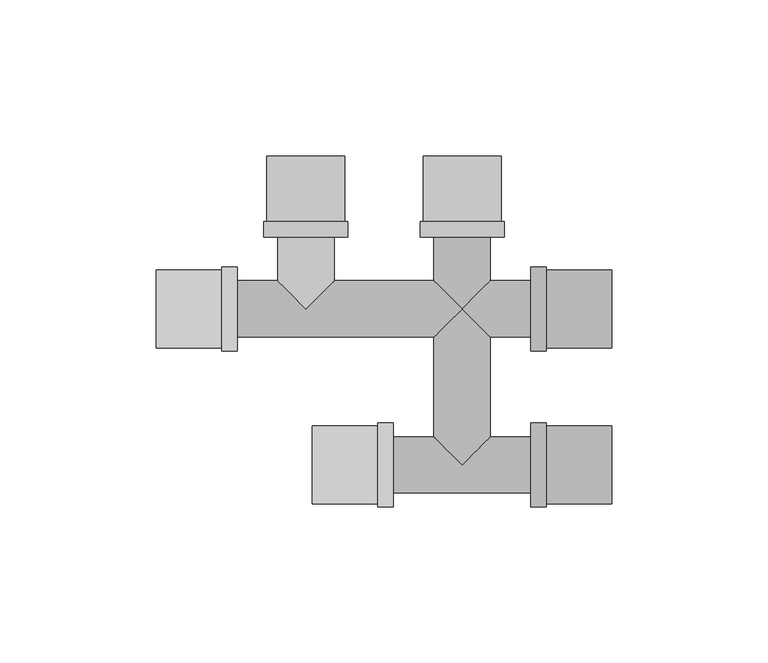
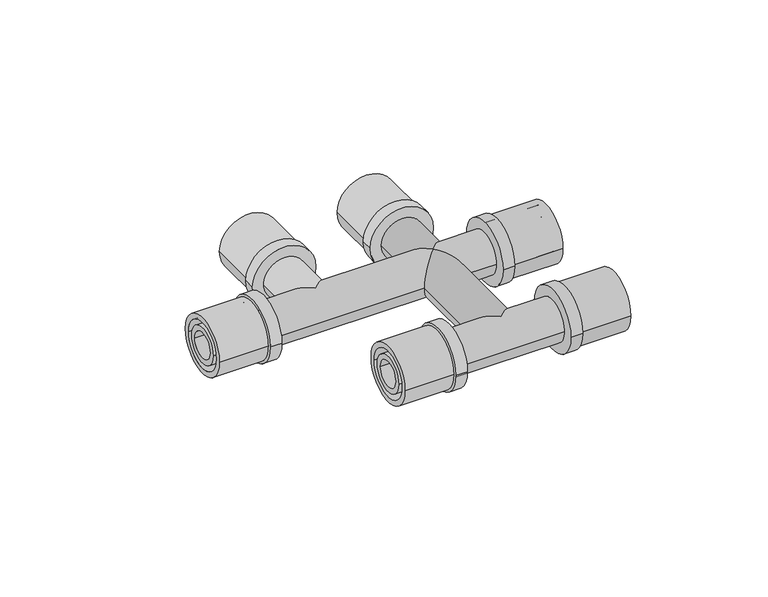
"""IFC4 building model written with IfcOpenShell, lengths in millimetres: pipe fitting geometry, PIF_Tigris_Crossfitting_Wavin_(multiport) : Tigris M5 Crossfitting 20x20x20."""

from ifc_helpers import new_model, si_unit, point, frame, frame_2d, origin, origin_2d, place, context, project, spatial, circle_curve, ellipse_curve, trimmed, segment, composite_curve, outline, extrude, source, transform, mapped, element, save
from ifc_brep_helpers import plane_surface, cylinder_surface, advanced_brep


def pipe_fitting_06188edc(model_context):
    return source(origin(), model_context, "Body", "SolidModel", [
        extrude(outline(composite_curve([segment(trimmed(circle_curve(frame_2d((-50.0, 0.0)), 13.45), [point((-63.45, 0.0))], [point((-36.55, 0.0))], False, "CARTESIAN"), True, "CONTINUOUS"), segment(trimmed(circle_curve(frame_2d((-50.0, 0.0)), 13.45), [point((-36.55, 0.0))], [point((-63.45, 0.0))], False, "CARTESIAN"), True, "CONTINUOUS")], self_intersect=False)), frame((-27.0, 0.0, 0.0), z_axis=(1.0, 0.0, 0.0), x_axis=(0.0, 1.0, 0.0)), (0.0, 0.0, 1.0), 5.0),
        extrude(outline(composite_curve([segment(trimmed(circle_curve(frame_2d((-50.0, 0.0)), 12.5), [point((-62.5, 0.0))], [point((-37.5, 0.0))], False, "CARTESIAN"), True, "CONTINUOUS"), segment(trimmed(circle_curve(frame_2d((-50.0, 0.0)), 12.5), [point((-37.5, 0.0))], [point((-62.5, 0.0))], False, "CARTESIAN"), True, "CONTINUOUS")], self_intersect=False), holes=[composite_curve([segment(trimmed(circle_curve(frame_2d((-50.0, 0.0)), 10.2), [point((-60.2, 0.0))], [point((-39.8, 0.0))], True, "CARTESIAN"), True, "CONTINUOUS"), segment(trimmed(circle_curve(frame_2d((-50.0, 0.0)), 10.2), [point((-39.8, 0.0))], [point((-60.2, 0.0))], True, "CARTESIAN"), True, "CONTINUOUS")], self_intersect=False)]), frame((-48.0, 0.0, 0.0), z_axis=(1.0, 0.0, 0.0), x_axis=(0.0, 1.0, 0.0)), (0.0, 0.0, 1.0), 21.0),
        extrude(outline(composite_curve([segment(trimmed(circle_curve(frame_2d((-50.0, 0.0)), 7.9), [point((-57.9, 0.0))], [point((-42.1, 0.0))], False, "CARTESIAN"), True, "CONTINUOUS"), segment(trimmed(circle_curve(frame_2d((-50.0, 0.0)), 7.9), [point((-42.1, 0.0))], [point((-57.9, 0.0))], False, "CARTESIAN"), True, "CONTINUOUS")], self_intersect=False), holes=[composite_curve([segment(trimmed(circle_curve(frame_2d((-50.0, 0.0)), 5.6), [point((-55.6, 0.0))], [point((-44.4, 0.0))], True, "CARTESIAN"), True, "CONTINUOUS"), segment(trimmed(circle_curve(frame_2d((-50.0, 0.0)), 5.6), [point((-44.4, 0.0))], [point((-55.6, 0.0))], True, "CARTESIAN"), True, "CONTINUOUS")], self_intersect=False)]), frame((-48.0, 0.0, 0.0), z_axis=(1.0, 0.0, 0.0), x_axis=(0.0, 1.0, 0.0)), (0.0, 0.0, 1.0), 26.0),
        extrude(outline(composite_curve([segment(trimmed(circle_curve(frame_2d((-50.0, 0.0)), 13.45), [point((-36.55, 0.0))], [point((-63.45, 0.0))], False, "CARTESIAN"), True, "CONTINUOUS"), segment(trimmed(circle_curve(frame_2d((-50.0, 0.0)), 13.45), [point((-63.45, 0.0))], [point((-36.55, 0.0))], False, "CARTESIAN"), True, "CONTINUOUS")], self_intersect=False)), frame((22.0, 0.0, 0.0), z_axis=(1.0, 0.0, 0.0), x_axis=(0.0, 1.0, 0.0)), (0.0, 0.0, 1.0), 5.0),
        extrude(outline(composite_curve([segment(trimmed(circle_curve(frame_2d((-50.0, 0.0)), 12.5), [point((-37.5, 0.0))], [point((-62.5, 0.0))], False, "CARTESIAN"), True, "CONTINUOUS"), segment(trimmed(circle_curve(frame_2d((-50.0, 0.0)), 12.5), [point((-62.5, 0.0))], [point((-37.5, 0.0))], False, "CARTESIAN"), True, "CONTINUOUS")], self_intersect=False), holes=[composite_curve([segment(trimmed(circle_curve(frame_2d((-50.0, 0.0)), 10.2), [point((-39.8, 0.0))], [point((-60.2, 0.0))], True, "CARTESIAN"), True, "CONTINUOUS"), segment(trimmed(circle_curve(frame_2d((-50.0, 0.0)), 10.2), [point((-60.2, 0.0))], [point((-39.8, 0.0))], True, "CARTESIAN"), True, "CONTINUOUS")], self_intersect=False)]), frame((27.0, 0.0, 0.0), z_axis=(1.0, 0.0, 0.0), x_axis=(0.0, 1.0, 0.0)), (0.0, 0.0, 1.0), 21.0),
        extrude(outline(composite_curve([segment(trimmed(circle_curve(frame_2d((-50.0, 0.0)), 7.9), [point((-42.1, 0.0))], [point((-57.9, 0.0))], False, "CARTESIAN"), True, "CONTINUOUS"), segment(trimmed(circle_curve(frame_2d((-50.0, 0.0)), 7.9), [point((-57.9, 0.0))], [point((-42.1, 0.0))], False, "CARTESIAN"), True, "CONTINUOUS")], self_intersect=False), holes=[composite_curve([segment(trimmed(circle_curve(frame_2d((-50.0, 0.0)), 5.6), [point((-44.4, 0.0))], [point((-55.6, 0.0))], True, "CARTESIAN"), True, "CONTINUOUS"), segment(trimmed(circle_curve(frame_2d((-50.0, 0.0)), 5.6), [point((-55.6, 0.0))], [point((-44.4, 0.0))], True, "CARTESIAN"), True, "CONTINUOUS")], self_intersect=False)]), frame((22.0, 0.0, 0.0), z_axis=(1.0, 0.0, 0.0), x_axis=(0.0, 1.0, 0.0)), (0.0, 0.0, 1.0), 26.0),
        extrude(outline(composite_curve([segment(trimmed(circle_curve(origin_2d(), 13.45), [point((13.45, 0.0))], [point((-13.45, 0.0))], False, "CARTESIAN"), True, "CONTINUOUS"), segment(trimmed(circle_curve(origin_2d(), 13.45), [point((-13.45, 0.0))], [point((13.45, 0.0))], False, "CARTESIAN"), True, "CONTINUOUS")], self_intersect=False)), frame((22.0, 0.0, 0.0), z_axis=(1.0, 0.0, 0.0), x_axis=(0.0, 1.0, 0.0)), (0.0, 0.0, 1.0), 5.0),
        extrude(outline(composite_curve([segment(trimmed(circle_curve(origin_2d(), 12.5), [point((12.5, 0.0))], [point((-12.5, 0.0))], False, "CARTESIAN"), True, "CONTINUOUS"), segment(trimmed(circle_curve(origin_2d(), 12.5), [point((-12.5, 0.0))], [point((12.5, 0.0))], False, "CARTESIAN"), True, "CONTINUOUS")], self_intersect=False), holes=[composite_curve([segment(trimmed(circle_curve(origin_2d(), 10.2), [point((10.2, 0.0))], [point((-10.2, 0.0))], True, "CARTESIAN"), True, "CONTINUOUS"), segment(trimmed(circle_curve(origin_2d(), 10.2), [point((-10.2, 0.0))], [point((10.2, 0.0))], True, "CARTESIAN"), True, "CONTINUOUS")], self_intersect=False)]), frame((27.0, 0.0, 0.0), z_axis=(1.0, 0.0, 0.0), x_axis=(0.0, 1.0, 0.0)), (0.0, 0.0, 1.0), 21.0),
        extrude(outline(composite_curve([segment(trimmed(circle_curve(origin_2d(), 7.9), [point((7.9, 0.0))], [point((-7.9, 0.0))], False, "CARTESIAN"), True, "CONTINUOUS"), segment(trimmed(circle_curve(origin_2d(), 7.9), [point((-7.9, 0.0))], [point((7.9, 0.0))], False, "CARTESIAN"), True, "CONTINUOUS")], self_intersect=False), holes=[composite_curve([segment(trimmed(circle_curve(origin_2d(), 5.6), [point((5.6, 0.0))], [point((-5.6, 0.0))], True, "CARTESIAN"), True, "CONTINUOUS"), segment(trimmed(circle_curve(origin_2d(), 5.6), [point((-5.6, 0.0))], [point((5.6, 0.0))], True, "CARTESIAN"), True, "CONTINUOUS")], self_intersect=False)]), frame((22.0, 0.0, 0.0), z_axis=(1.0, 0.0, 0.0), x_axis=(0.0, 1.0, 0.0)), (0.0, 0.0, 1.0), 26.0),
        extrude(outline(composite_curve([segment(trimmed(circle_curve(origin_2d(), 13.45), [point((0.0, -13.45))], [point((0.0, 13.45))], False, "CARTESIAN"), True, "CONTINUOUS"), segment(trimmed(circle_curve(origin_2d(), 13.45), [point((0.0, 13.45))], [point((0.0, -13.45))], False, "CARTESIAN"), True, "CONTINUOUS")], self_intersect=False)), frame((0.0, 23.0, 0.0), z_axis=(0.0, 1.0, 0.0), x_axis=(0.0, 0.0, 1.0)), (0.0, 0.0, 1.0), 5.0),
        extrude(outline(composite_curve([segment(trimmed(circle_curve(origin_2d(), 12.5), [point((0.0, -12.5))], [point((0.0, 12.5))], False, "CARTESIAN"), True, "CONTINUOUS"), segment(trimmed(circle_curve(origin_2d(), 12.5), [point((0.0, 12.5))], [point((0.0, -12.5))], False, "CARTESIAN"), True, "CONTINUOUS")], self_intersect=False), holes=[composite_curve([segment(trimmed(circle_curve(origin_2d(), 10.2), [point((0.0, -10.2))], [point((0.0, 10.2))], True, "CARTESIAN"), True, "CONTINUOUS"), segment(trimmed(circle_curve(origin_2d(), 10.2), [point((0.0, 10.2))], [point((0.0, -10.2))], True, "CARTESIAN"), True, "CONTINUOUS")], self_intersect=False)]), frame((0.0, 28.0, 0.0), z_axis=(0.0, 1.0, 0.0), x_axis=(0.0, 0.0, 1.0)), (0.0, 0.0, 1.0), 21.0),
        extrude(outline(composite_curve([segment(trimmed(circle_curve(origin_2d(), 7.9), [point((0.0, -7.9))], [point((0.0, 7.9))], False, "CARTESIAN"), True, "CONTINUOUS"), segment(trimmed(circle_curve(origin_2d(), 7.9), [point((0.0, 7.9))], [point((0.0, -7.9))], False, "CARTESIAN"), True, "CONTINUOUS")], self_intersect=False), holes=[composite_curve([segment(trimmed(circle_curve(origin_2d(), 5.6), [point((0.0, -5.6))], [point((0.0, 5.6))], True, "CARTESIAN"), True, "CONTINUOUS"), segment(trimmed(circle_curve(origin_2d(), 5.6), [point((0.0, 5.6))], [point((0.0, -5.6))], True, "CARTESIAN"), True, "CONTINUOUS")], self_intersect=False)]), frame((0.0, 23.0, 0.0), z_axis=(0.0, 1.0, 0.0), x_axis=(0.0, 0.0, 1.0)), (0.0, 0.0, 1.0), 26.0),
        extrude(outline(composite_curve([segment(trimmed(circle_curve(frame_2d((0.0, -50.0)), 13.45), [point((0.0, -63.45))], [point((0.0, -36.55))], False, "CARTESIAN"), True, "CONTINUOUS"), segment(trimmed(circle_curve(frame_2d((0.0, -50.0)), 13.45), [point((0.0, -36.55))], [point((0.0, -63.45))], False, "CARTESIAN"), True, "CONTINUOUS")], self_intersect=False)), frame((0.0, 23.0, 0.0), z_axis=(0.0, 1.0, 0.0), x_axis=(0.0, 0.0, 1.0)), (0.0, 0.0, 1.0), 5.0),
        extrude(outline(composite_curve([segment(trimmed(circle_curve(frame_2d((0.0, -50.0)), 12.5), [point((0.0, -62.5))], [point((0.0, -37.5))], False, "CARTESIAN"), True, "CONTINUOUS"), segment(trimmed(circle_curve(frame_2d((0.0, -50.0)), 12.5), [point((0.0, -37.5))], [point((0.0, -62.5))], False, "CARTESIAN"), True, "CONTINUOUS")], self_intersect=False), holes=[composite_curve([segment(trimmed(circle_curve(frame_2d((0.0, -50.0)), 10.2), [point((0.0, -60.2))], [point((0.0, -39.8))], True, "CARTESIAN"), True, "CONTINUOUS"), segment(trimmed(circle_curve(frame_2d((0.0, -50.0)), 10.2), [point((0.0, -39.8))], [point((0.0, -60.2))], True, "CARTESIAN"), True, "CONTINUOUS")], self_intersect=False)]), frame((0.0, 28.0, 0.0), z_axis=(0.0, 1.0, 0.0), x_axis=(0.0, 0.0, 1.0)), (0.0, 0.0, 1.0), 21.0),
        extrude(outline(composite_curve([segment(trimmed(circle_curve(frame_2d((0.0, -50.0)), 7.9), [point((0.0, -57.9))], [point((0.0, -42.1))], False, "CARTESIAN"), True, "CONTINUOUS"), segment(trimmed(circle_curve(frame_2d((0.0, -50.0)), 7.9), [point((0.0, -42.1))], [point((0.0, -57.9))], False, "CARTESIAN"), True, "CONTINUOUS")], self_intersect=False), holes=[composite_curve([segment(trimmed(circle_curve(frame_2d((0.0, -50.0)), 5.6), [point((0.0, -55.6))], [point((0.0, -44.4))], True, "CARTESIAN"), True, "CONTINUOUS"), segment(trimmed(circle_curve(frame_2d((0.0, -50.0)), 5.6), [point((0.0, -44.4))], [point((0.0, -55.6))], True, "CARTESIAN"), True, "CONTINUOUS")], self_intersect=False)]), frame((0.0, 23.0, 0.0), z_axis=(0.0, 1.0, 0.0), x_axis=(0.0, 0.0, 1.0)), (0.0, 0.0, 1.0), 26.0),
        extrude(outline(composite_curve([segment(trimmed(circle_curve(origin_2d(), 13.45), [point((-13.45, 0.0))], [point((13.45, 0.0))], False, "CARTESIAN"), True, "CONTINUOUS"), segment(trimmed(circle_curve(origin_2d(), 13.45), [point((13.45, 0.0))], [point((-13.45, 0.0))], False, "CARTESIAN"), True, "CONTINUOUS")], self_intersect=False)), frame((-77.0, 0.0, 0.0), z_axis=(1.0, 0.0, 0.0), x_axis=(0.0, 1.0, 0.0)), (0.0, 0.0, 1.0), 5.0),
        extrude(outline(composite_curve([segment(trimmed(circle_curve(origin_2d(), 12.5), [point((-12.5, 0.0))], [point((12.5, 0.0))], False, "CARTESIAN"), True, "CONTINUOUS"), segment(trimmed(circle_curve(origin_2d(), 12.5), [point((12.5, 0.0))], [point((-12.5, 0.0))], False, "CARTESIAN"), True, "CONTINUOUS")], self_intersect=False), holes=[composite_curve([segment(trimmed(circle_curve(origin_2d(), 10.2), [point((-10.2, 0.0))], [point((10.2, 0.0))], True, "CARTESIAN"), True, "CONTINUOUS"), segment(trimmed(circle_curve(origin_2d(), 10.2), [point((10.2, 0.0))], [point((-10.2, 0.0))], True, "CARTESIAN"), True, "CONTINUOUS")], self_intersect=False)]), frame((-98.0, 0.0, 0.0), z_axis=(1.0, 0.0, 0.0), x_axis=(0.0, 1.0, 0.0)), (0.0, 0.0, 1.0), 21.0),
        extrude(outline(composite_curve([segment(trimmed(circle_curve(origin_2d(), 7.9), [point((-7.9, 0.0))], [point((7.9, 0.0))], False, "CARTESIAN"), True, "CONTINUOUS"), segment(trimmed(circle_curve(origin_2d(), 7.9), [point((7.9, 0.0))], [point((-7.9, 0.0))], False, "CARTESIAN"), True, "CONTINUOUS")], self_intersect=False), holes=[composite_curve([segment(trimmed(circle_curve(origin_2d(), 5.6), [point((-5.6, 0.0))], [point((5.6, 0.0))], True, "CARTESIAN"), True, "CONTINUOUS"), segment(trimmed(circle_curve(origin_2d(), 5.6), [point((5.6, 0.0))], [point((-5.6, 0.0))], True, "CARTESIAN"), True, "CONTINUOUS")], self_intersect=False)]), frame((-98.0, 0.0, 0.0), z_axis=(1.0, 0.0, 0.0), x_axis=(0.0, 1.0, 0.0)), (0.0, 0.0, 1.0), 26.0),
        advanced_brep(
        [(-41.0, 23.0, 0.0), (-59.0, 23.0, 0.0), (-59.0, 9.0, 0.0), (-50.0, 0.0, 9.0), (-41.0, 9.0, 0.0), (-50.0, 0.0, -9.0), (-72.0, -9.0, 0.0), (-72.0, 9.0, 0.0), (22.0, -9.0, 0.0), (22.0, 9.0, 0.0), (-9.0, -9.0, 0.0), (0.0, 0.0, 9.0), (-9.0, 9.0, 0.0), (9.0, 9.0, 0.0), (9.0, -9.0, 0.0), (0.0, 0.0, -9.0), (-9.0, 23.0, 0.0), (9.0, 23.0, 0.0), (-9.0, -41.0, 0.0), (0.0, -50.0, 9.0), (9.0, -41.0, 0.0), (0.0, -50.0, -9.0), (-22.0, -59.0, 0.0), (-22.0, -41.0, 0.0), (22.0, -59.0, 0.0), (22.0, -41.0, 0.0)],
        [
            (0, 1, circle_curve(frame((-50.0, 23.0, 0.0), z_axis=(0.0, 1.0, 0.0), x_axis=(-1.0, 0.0, 0.0)), 9.0)),
            (1, 0, circle_curve(frame((-50.0, 23.0, 0.0), z_axis=(0.0, 1.0, 0.0), x_axis=(-1.0, 0.0, 0.0)), 9.0)),
            (1, 2),
            (2, 3, ellipse_curve(frame((-50.0, 0.0, 0.0), z_axis=(0.7071067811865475, 0.7071067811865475, 0.0), x_axis=(0.7071067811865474, -0.7071067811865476, 0.0)), 12.7279221, 9.0)),
            (3, 4, ellipse_curve(frame((-50.0, 0.0, 0.0), z_axis=(-0.7071067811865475, 0.7071067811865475, 0.0), x_axis=(-0.7071067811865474, -0.7071067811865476, 0.0)), 12.7279221, 9.0)),
            (4, 0),
            (4, 5, ellipse_curve(frame((-50.0, 0.0, 0.0), z_axis=(-0.7071067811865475, 0.7071067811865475, 0.0), x_axis=(-0.7071067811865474, -0.7071067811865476, 0.0)), 12.7279221, 9.0)),
            (5, 2, ellipse_curve(frame((-50.0, 0.0, 0.0), z_axis=(0.7071067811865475, 0.7071067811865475, 0.0), x_axis=(0.7071067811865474, -0.7071067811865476, 0.0)), 12.7279221, 9.0)),
            (6, 7, circle_curve(frame((-72.0, 0.0, 0.0), z_axis=(-1.0, 0.0, 0.0), x_axis=(0.0, 1.0, 0.0)), 9.0)),
            (7, 6, circle_curve(frame((-72.0, 0.0, 0.0), z_axis=(-1.0, 0.0, 0.0), x_axis=(0.0, 1.0, 0.0)), 9.0)),
            (8, 9, circle_curve(frame((22.0, 0.0, 0.0), z_axis=(1.0, 0.0, 0.0), x_axis=(0.0, 1.0, 0.0)), 9.0)),
            (9, 8, circle_curve(frame((22.0, 0.0, 0.0), z_axis=(1.0, 0.0, 0.0), x_axis=(0.0, 1.0, 0.0)), 9.0)),
            (6, 10),
            (10, 11, ellipse_curve(frame((0.0, 0.0, 0.0), z_axis=(-0.7071067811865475, 0.7071067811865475, 0.0), x_axis=(-0.7071067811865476, -0.7071067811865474, 0.0)), 12.7279221, 9.0)),
            (11, 12, ellipse_curve(frame((0.0, 0.0, 0.0), z_axis=(-0.7071067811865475, -0.7071067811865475, 0.0), x_axis=(-0.7071067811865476, 0.7071067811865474, 0.0)), 12.7279221, 9.0)),
            (12, 4),
            (2, 7),
            (9, 13),
            (13, 11, ellipse_curve(frame((0.0, 0.0, 0.0), z_axis=(0.7071067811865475, -0.7071067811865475, 0.0), x_axis=(-0.7071067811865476, -0.7071067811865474, 0.0)), 12.7279221, 9.0)),
            (11, 14, ellipse_curve(frame((0.0, 0.0, 0.0), z_axis=(0.7071067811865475, 0.7071067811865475, 0.0), x_axis=(-0.7071067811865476, 0.7071067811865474, 0.0)), 12.7279221, 9.0)),
            (14, 8),
            (12, 15, ellipse_curve(frame((0.0, 0.0, 0.0), z_axis=(-0.7071067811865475, -0.7071067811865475, 0.0), x_axis=(-0.7071067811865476, 0.7071067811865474, 0.0)), 12.7279221, 9.0)),
            (15, 10, ellipse_curve(frame((0.0, 0.0, 0.0), z_axis=(-0.7071067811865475, 0.7071067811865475, 0.0), x_axis=(-0.7071067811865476, -0.7071067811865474, 0.0)), 12.7279221, 9.0)),
            (14, 15, ellipse_curve(frame((0.0, 0.0, 0.0), z_axis=(0.7071067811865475, 0.7071067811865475, 0.0), x_axis=(-0.7071067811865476, 0.7071067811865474, 0.0)), 12.7279221, 9.0)),
            (15, 13, ellipse_curve(frame((0.0, 0.0, 0.0), z_axis=(0.7071067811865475, -0.7071067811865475, 0.0), x_axis=(-0.7071067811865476, -0.7071067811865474, 0.0)), 12.7279221, 9.0)),
            (16, 17, circle_curve(frame((0.0, 23.0, 0.0), z_axis=(0.0, 1.0, 0.0), x_axis=(1.0, 0.0, 0.0)), 9.0)),
            (17, 16, circle_curve(frame((0.0, 23.0, 0.0), z_axis=(0.0, 1.0, 0.0), x_axis=(1.0, 0.0, 0.0)), 9.0)),
            (10, 18),
            (18, 19, ellipse_curve(frame((0.0, -50.0, 0.0), z_axis=(0.7071067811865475, 0.7071067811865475, 0.0), x_axis=(-0.7071067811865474, 0.7071067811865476, 0.0)), 12.7279221, 9.0)),
            (19, 20, ellipse_curve(frame((0.0, -50.0, 0.0), z_axis=(-0.7071067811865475, 0.7071067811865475, 0.0), x_axis=(0.7071067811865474, 0.7071067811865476, 0.0)), 12.7279221, 9.0)),
            (20, 14),
            (16, 12),
            (13, 17),
            (20, 21, ellipse_curve(frame((0.0, -50.0, 0.0), z_axis=(-0.7071067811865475, 0.7071067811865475, 0.0), x_axis=(0.7071067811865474, 0.7071067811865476, 0.0)), 12.7279221, 9.0)),
            (21, 18, ellipse_curve(frame((0.0, -50.0, 0.0), z_axis=(0.7071067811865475, 0.7071067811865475, 0.0), x_axis=(-0.7071067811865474, 0.7071067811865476, 0.0)), 12.7279221, 9.0)),
            (22, 23, circle_curve(frame((-22.0, -50.0, 0.0), z_axis=(-1.0, 0.0, 0.0), x_axis=(0.0, 1.0, 0.0)), 9.0)),
            (23, 22, circle_curve(frame((-22.0, -50.0, 0.0), z_axis=(-1.0, 0.0, 0.0), x_axis=(0.0, 1.0, 0.0)), 9.0)),
            (24, 25, circle_curve(frame((22.0, -50.0, 0.0), z_axis=(1.0, 0.0, 0.0), x_axis=(0.0, 1.0, 0.0)), 9.0)),
            (25, 24, circle_curve(frame((22.0, -50.0, 0.0), z_axis=(1.0, 0.0, 0.0), x_axis=(0.0, 1.0, 0.0)), 9.0)),
            (22, 24),
            (25, 20),
            (18, 23),
        ],
        [
            plane_surface(frame((-50.0, 23.0, 0.0), z_axis=(0.0, 1.0, 0.0), x_axis=(0.0, 0.0, 1.0))),
            cylinder_surface(frame((-50.0, 0.0, 0.0), z_axis=(0.0, -1.0, 0.0), x_axis=(-1.0, 0.0, 0.0)), 9.0),
            plane_surface(frame((-72.0, 0.0, 0.0), z_axis=(-1.0, 0.0, 0.0), x_axis=(0.0, 0.0, 1.0))),
            plane_surface(frame((22.0, 0.0, 0.0), z_axis=(1.0, 0.0, 0.0), x_axis=(0.0, 0.0, 1.0))),
            cylinder_surface(frame((-72.0, 0.0, 0.0), z_axis=(-1.0, 0.0, 0.0), x_axis=(0.0, 1.0, 0.0)), 9.0),
            plane_surface(frame((0.0, 23.0, 0.0), z_axis=(0.0, 1.0, 0.0), x_axis=(0.0, 0.0, 1.0))),
            cylinder_surface(frame((0.0, 23.0, 0.0), z_axis=(0.0, 1.0, 0.0), x_axis=(1.0, 0.0, 0.0)), 9.0),
            plane_surface(frame((-22.0, -50.0, 0.0), z_axis=(-1.0, 0.0, 0.0), x_axis=(0.0, 0.0, 1.0))),
            plane_surface(frame((22.0, -50.0, 0.0), z_axis=(1.0, 0.0, 0.0), x_axis=(0.0, 0.0, 1.0))),
            cylinder_surface(frame((-22.0, -50.0, 0.0), z_axis=(-1.0, 0.0, 0.0), x_axis=(0.0, 1.0, 0.0)), 9.0),
        ],
        [
            (0, [[1, 2]]),
            (1, [[-2, 3, 4, 5, 6]]),
            (1, [[-1, -6, 7, 8, -3]]),
            (2, [[9, 10]]),
            (3, [[11, 12]]),
            (4, [[-9, 13, 14, 15, 16, -5, -4, 17]]),
            (4, [[-12, 18, 19, 20, 21]]),
            (4, [[-10, -17, -8, -7, -16, 22, 23, -13]]),
            (4, [[-11, -21, 24, 25, -18]]),
            (5, [[26, 27]]),
            (6, [[-20, -14, 28, 29, 30, 31]]),
            (6, [[-26, 32, -15, -19, 33]]),
            (6, [[-24, -31, 34, 35, -28, -23]]),
            (6, [[-27, -33, -25, -22, -32]]),
            (7, [[36, 37]]),
            (8, [[38, 39]]),
            (9, [[-36, 40, -39, 41, -30, -29, 42]]),
            (9, [[-37, -42, -35, -34, -41, -38, -40]]),
        ],
    ),
    ])


if __name__ == "__main__":
    model = new_model("IFC4")
    model_context = context("Model", 3, world=origin())
    ifc_project = project(units=[si_unit("LENGTHUNIT", "METRE", prefix="MILLI")], contexts=[model_context])
    site = spatial("IfcSite", under=ifc_project)
    building = spatial("IfcBuilding", under=site)
    placement = place(None, origin())
    pipe_fitting_shape = pipe_fitting_06188edc(model_context)
    element("IfcPipeFitting", 1, ObjectType="PIF_Tigris_Crossfitting_Wavin_(multiport) : Tigris M5 Crossfitting 20x20x20", at=placement, inside=building, context=model_context, shape_type="MappedRepresentation", body=[
        mapped(pipe_fitting_shape, transform((0.0, 0.0, 0.0), x_axis=(1.0, 0.0, 0.0), y_axis=(0.0, 1.0, 0.0), z_axis=(0.0, 0.0, 1.0))),
    ])
    save(model, "model.ifc")
